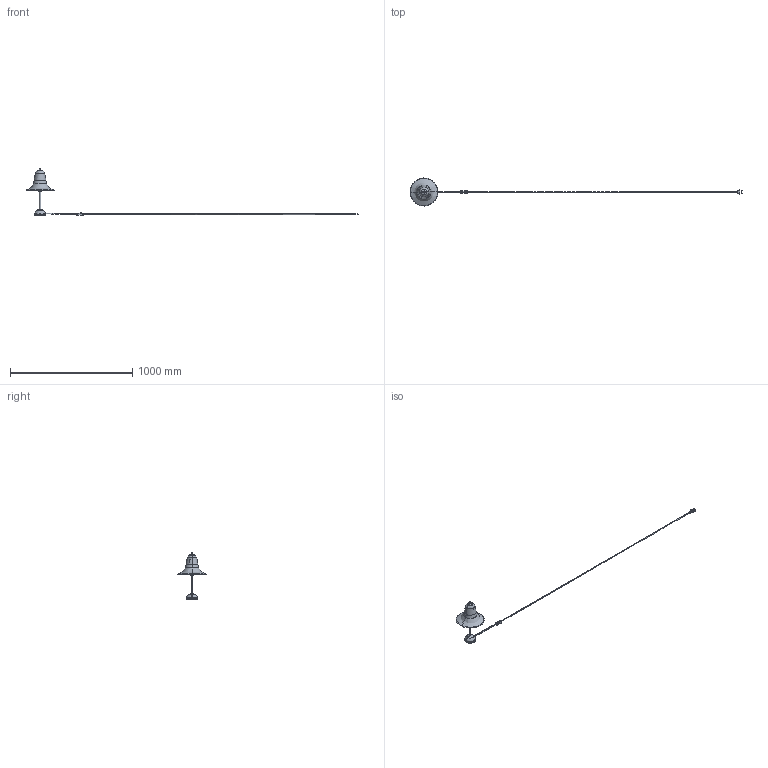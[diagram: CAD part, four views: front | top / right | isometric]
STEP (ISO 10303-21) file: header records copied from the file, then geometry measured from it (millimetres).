
FILE_DESCRIPTION(/* description */ (''),/* implementation_level */ '2;1');
FILE_NAME(/* name */ 'Verpan_Pantop_Table_Lamp_stp',/* time_stamp */ '2025-03-19T13:02:52+01:00',/* author */ (''),/* organization */ (''),/* preprocessor_version */ 'ST-DEVELOPER v19.2',/* originating_system */ 'Rhino 8.13',/* authorisation */ '');
FILE_SCHEMA (('CONFIG_CONTROL_DESIGN'));
Products named in the file (30): Document; ZG-013; 15-BALL; E14-RING-OV76S; 230-MOGU-DENGZHAO-STEEL; PANTOP-GUIJIAO-TAO; E14_LED; E14-OV-DENGTOU-2000L; E14-METAL-CAP; M10X1X3-NUT; M10X22-DATOU-BIANYAGUAN; PANTOP-TABLE-ZHIJIA-ZJ_ASM; 48X24X2-PINDIAN; 3-ZHIGAN; 30X10X2-PINDIAN; ZHIJIA-DIZUO; M3X8; 026-ZY; 23X10DIANPIAN; 014; 10_NEICHI_JJ; PANTOP-LAGAN-NG; GUIJIAO-DIAN; M3X8-CT; 0426_HUXIANTAO; PANTOP-DENGAN; 93-DI-ZHAO; TABLE-PEIZHONG; Reflect switchRevised 27-01-23; wireframe_rep_0
Bounding box: 2719.01 x 229.73 x 383 mm (x, y, z)
Volume: 484805.1 mm3; surface area: 360391 mm2
Topology: 39 solids, 60 shells, 1659 faces, 4246 edges, 2674 vertices
Faces by surface type: bspline 634, cylinder 600, plane 425
Entity records: 352657 total; most frequent: CARTESIAN_POINT 322243, ORIENTED_EDGE 6628, EDGE_CURVE 3380, DIRECTION 3258, B_SPLINE_CURVE_WITH_KNOTS 2289, VERTEX_POINT 2145, AXIS2_PLACEMENT_3D 2068, EDGE_LOOP 1472
